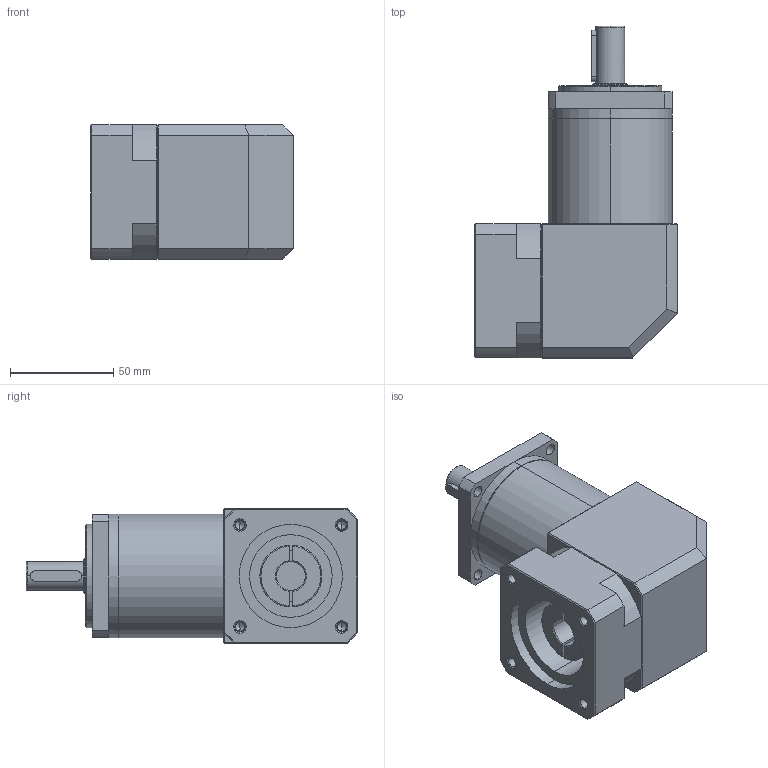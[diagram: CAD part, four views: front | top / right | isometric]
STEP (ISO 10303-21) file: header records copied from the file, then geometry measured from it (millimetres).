
FILE_DESCRIPTION((''),'2;1');
FILE_NAME('ASM0007_ASM','2017-06-15T',('Administrator'),(''),'PRO/ENGINEER BY PARAMETRIC TECHNOLOGY CORPORATION, 2013230','PRO/ENGINEER BY PARAMETRIC TECHNOLOGY CORPORATION, 2013230','');
FILE_SCHEMA(('CONFIG_CONTROL_DESIGN'));
Length unit declared in the file: millimetre
Products named in the file (7): ZFR60输入法兰; ZFR60蛌褒眊极; PRT0089; PRT0094; PRT0095; PRT0096; ASM0007_ASM
Assembly tree (6 placements, depth 2):
  ASM0007_ASM
    ZFR60输入法兰
    ZFR60蛌褒眊极
    PRT0089
    PRT0094
    PRT0095
    PRT0096
Bounding box: 98.1 x 160.8 x 65 mm (x, y, z)
Volume: 440871.1 mm3; surface area: 85809.3 mm2
Topology: 6 solids, 6 shells, 212 faces, 510 edges, 315 vertices
Faces by surface type: plane 83, cylinder 76, cone 45, torus 8
Entity records: 6460 total; most frequent: CARTESIAN_POINT 1255, DIRECTION 1143, ORIENTED_EDGE 1000, EDGE_CURVE 500, AXIS2_PLACEMENT_3D 452, VERTEX_POINT 315, EDGE_LOOP 243, VECTOR 239
